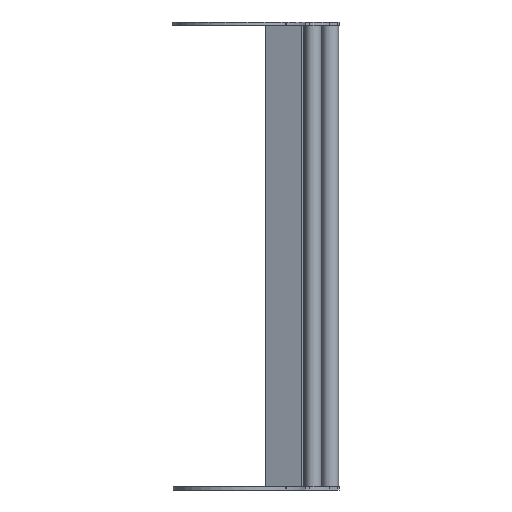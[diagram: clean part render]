
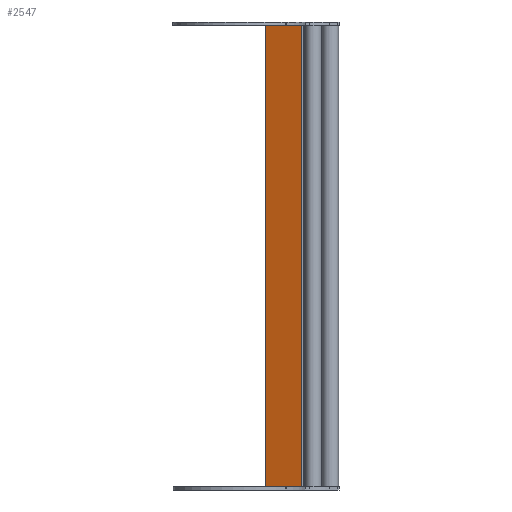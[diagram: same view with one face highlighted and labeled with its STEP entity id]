
A CAD part, front view. The second image highlights one B-rep face of the part: STEP entity #2547.
In plain terms, the highlighted planar face has unit normal (-0.342, -0.94, 0).
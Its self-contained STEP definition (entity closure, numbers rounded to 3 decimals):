
#17 = CARTESIAN_POINT ( 'NONE',  ( 56.745, 61.65, -418. ) ) ;
#403 = VERTEX_POINT ( 'NONE', #1775 ) ;
#577 = DIRECTION ( 'NONE',  ( 0.342, 0.94, 0. ) ) ;
#742 = VERTEX_POINT ( 'NONE', #840 ) ;
#840 = CARTESIAN_POINT ( 'NONE',  ( 23.4, 73.787, -418. ) ) ;
#856 = CARTESIAN_POINT ( 'NONE',  ( 56.745, 61.65, -418. ) ) ;
#1025 = VECTOR ( 'NONE', #3427, 1000. ) ;
#1286 = EDGE_CURVE ( 'NONE', #403, #2589, #3616, .T. ) ;
#1443 = PLANE ( 'NONE',  #2769 ) ;
#1586 = CARTESIAN_POINT ( 'NONE',  ( 56.745, 61.65, 0. ) ) ;
#1775 = CARTESIAN_POINT ( 'NONE',  ( 56.745, 61.65, -418. ) ) ;
#1823 = EDGE_LOOP ( 'NONE', ( #4667, #3966, #2470, #2776 ) ) ;
#2099 = LINE ( 'NONE', #3027, #1025 ) ;
#2414 = CARTESIAN_POINT ( 'NONE',  ( 23.4, 73.787, 0. ) ) ;
#2470 = ORIENTED_EDGE ( 'NONE', *, *, #2897, .F. ) ;
#2547 = ADVANCED_FACE ( 'NONE', ( #2748 ), #1443, .F. ) ;
#2584 = LINE ( 'NONE', #1586, #4279 ) ;
#2589 = VERTEX_POINT ( 'NONE', #3894 ) ;
#2748 = FACE_OUTER_BOUND ( 'NONE', #1823, .T. ) ;
#2769 = AXIS2_PLACEMENT_3D ( 'NONE', #3045, #577, #5024 ) ;
#2776 = ORIENTED_EDGE ( 'NONE', *, *, #1286, .T. ) ;
#2897 = EDGE_CURVE ( 'NONE', #403, #742, #4242, .T. ) ;
#3027 = CARTESIAN_POINT ( 'NONE',  ( 23.4, 73.787, -418. ) ) ;
#3045 = CARTESIAN_POINT ( 'NONE',  ( 56.745, 61.65, -418. ) ) ;
#3427 = DIRECTION ( 'NONE',  ( 0., 0., 1. ) ) ;
#3434 = VECTOR ( 'NONE', #4480, 1000. ) ;
#3589 = VERTEX_POINT ( 'NONE', #2414 ) ;
#3616 = LINE ( 'NONE', #17, #3434 ) ;
#3894 = CARTESIAN_POINT ( 'NONE',  ( 56.745, 61.65, 0. ) ) ;
#3966 = ORIENTED_EDGE ( 'NONE', *, *, #5210, .F. ) ;
#4109 = VECTOR ( 'NONE', #4875, 1000. ) ;
#4242 = LINE ( 'NONE', #856, #4109 ) ;
#4279 = VECTOR ( 'NONE', #4442, 1000. ) ;
#4442 = DIRECTION ( 'NONE',  ( -0.94, 0.342, 0. ) ) ;
#4480 = DIRECTION ( 'NONE',  ( 0., 0., 1. ) ) ;
#4512 = EDGE_CURVE ( 'NONE', #2589, #3589, #2584, .T. ) ;
#4667 = ORIENTED_EDGE ( 'NONE', *, *, #4512, .T. ) ;
#4875 = DIRECTION ( 'NONE',  ( -0.94, 0.342, 0. ) ) ;
#5024 = DIRECTION ( 'NONE',  ( -0.94, 0.342, 0. ) ) ;
#5210 = EDGE_CURVE ( 'NONE', #742, #3589, #2099, .T. ) ;
